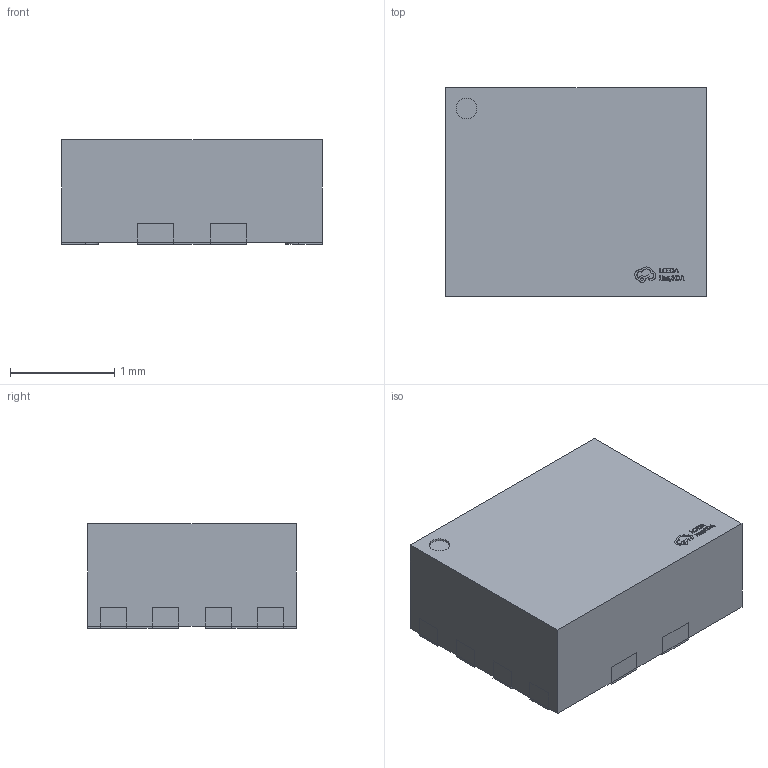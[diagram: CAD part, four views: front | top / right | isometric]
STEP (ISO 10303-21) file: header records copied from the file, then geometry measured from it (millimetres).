
FILE_DESCRIPTION (( 'STEP AP214' ), '1' );
FILE_NAME ('VQFN-11_L2.0-W2.5-H1.0-TPS61089RNRT.step', '2022-07-15T04:06:05', ( '' ), ( '' ), 'SwSTEP 2.0', 'SolidWorks 2020', '' );
FILE_SCHEMA (( 'AUTOMOTIVE_DESIGN' ));
Length unit declared in the file: millimetre
Products named in the file (1): VQFN-11_L2.0-W2.5-H1.0-TPS61089RNRT
Bounding box: 2.5 x 2 x 1 mm (x, y, z)
Volume: 4.9 mm3; surface area: 32 mm2
Topology: 36 solids, 36 shells, 529 faces, 1347 edges, 898 vertices
Faces by surface type: plane 373, bspline 112, cylinder 44
Entity records: 22586 total; most frequent: CARTESIAN_POINT 4879, ORIENTED_EDGE 2694, DIRECTION 2043, EDGE_CURVE 1347, LINE 1031, VECTOR 1031, VERTEX_POINT 898, EDGE_LOOP 549
